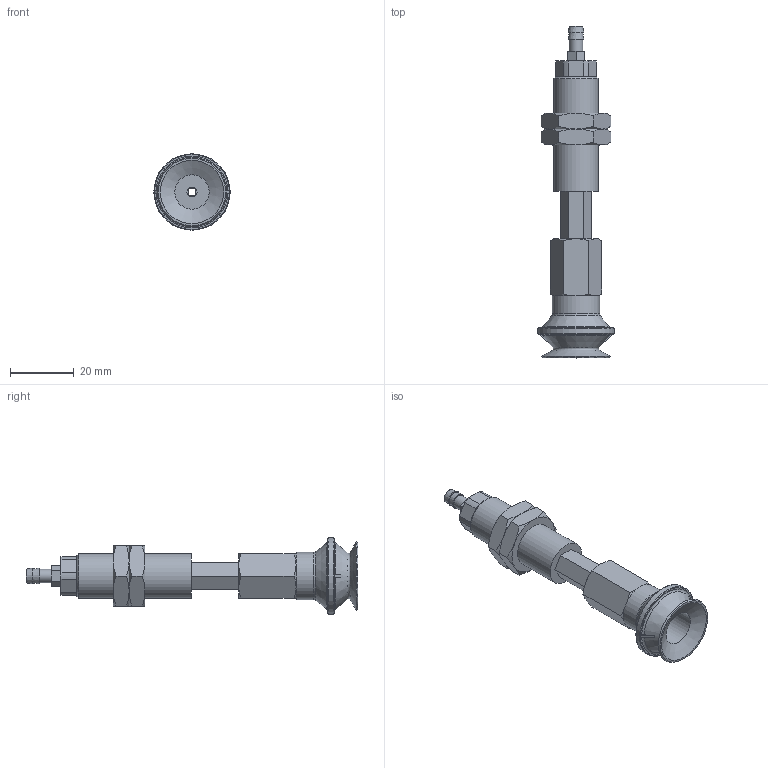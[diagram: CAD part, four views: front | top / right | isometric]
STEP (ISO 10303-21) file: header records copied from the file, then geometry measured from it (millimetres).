
FILE_DESCRIPTION(('STEP AP203'),'1');
FILE_NAME('-T.stp','2025-08-27T00:59:37',(' '),(' '),'Spatial InterOp 3D',' ',' ');
FILE_SCHEMA(('CONFIG_CONTROL_DESIGN'));
Length unit declared in the file: millimetre
Products named in the file (8): BNABPBTH-20-15-※-T; ADAPTER; NAPBTH-20-15-MBODY; Adapter20-T-NAPB; Nut-20-S-PB; NAPBTH-20-15-FBODY; BPBG-20-※; T
Assembly tree (8 placements, depth 2):
  BNABPBTH-20-15-※-T
    ADAPTER
    NAPBTH-20-15-MBODY
    Adapter20-T-NAPB
    Nut-20-S-PB  x2
    NAPBTH-20-15-FBODY
    BPBG-20-※
    T
Bounding box: 24 x 104.5 x 24 mm (x, y, z)
Volume: 14989.2 mm3; surface area: 11783.3 mm2
Topology: 8 solids, 8 shells, 167 faces, 367 edges, 227 vertices
Faces by surface type: plane 81, cone 54, cylinder 23, torus 9
Full cylindrical faces by diameter (mm): 2.5 x1, 3 x3, 4.134 x2, 4.3 x1, 4.6 x1, 5 x2, 10.8 x1, 11 x1, 12.917 x2, 14 x1, 15 x1, 24 x1
Entity records: 4344 total; most frequent: CARTESIAN_POINT 951, DIRECTION 634, ORIENTED_EDGE 544, EDGE_CURVE 272, AXIS2_PLACEMENT_3D 257, EDGE_LOOP 206, VERTEX_POINT 190, FACE_OUTER_BOUND 167
